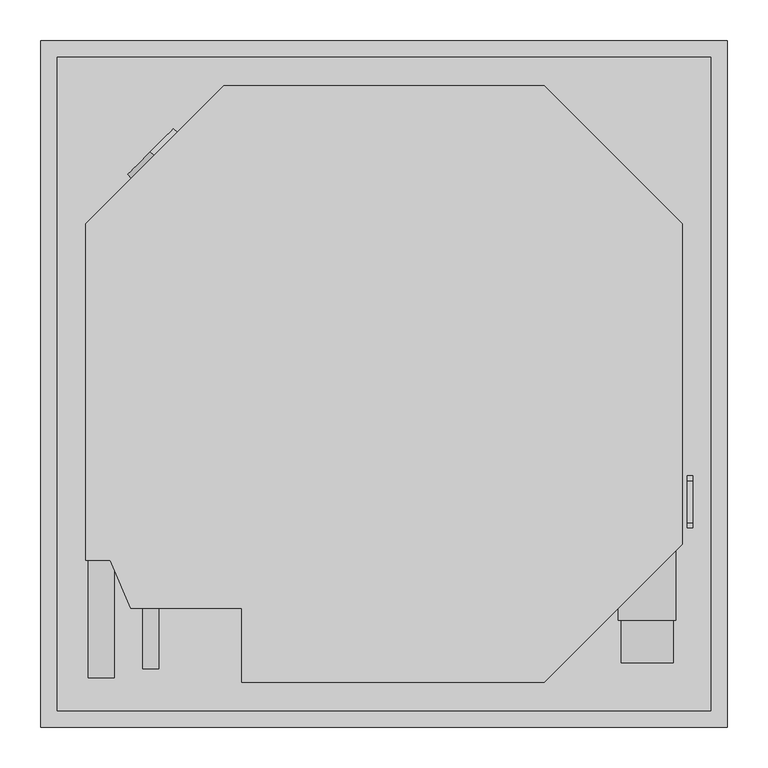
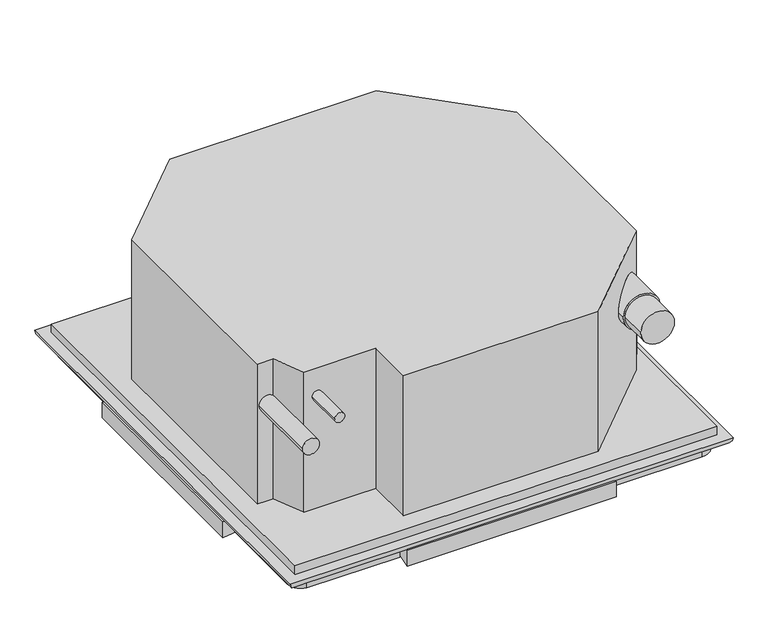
"""IFC4 building model written with IfcOpenShell, lengths in millimetres: proxy geometry, PLFY-P-NBMU-E_4-way_33x33 : PLFY-P36NBMU-E."""

import ifcopenshell
import ifcopenshell.guid

model = None  # the IFC model being written
_history = None  # IfcOwnerHistory: only IFC2X3 demands one
_inside = {}  # id of a spatial element -> (the spatial element, [elements in it])
_under = {}  # id of a project, library or spatial element -> (it, [spatial elements below it])
_declared = {}  # id of a project -> (the project, [libraries it declares])
_typed = {}  # id of a type object -> (the type object, [elements of that type])
_made_of = {}  # id of a material, layer set ... -> (it, [elements and type objects made of it])


def new_model(schema):
    """Start an empty IFC model of exactly this schema.

    Asked for "IFC4X3", IfcOpenShell would pick the latest addendum, in which some entities
    have other attributes; the version numbers below select the first issue.
    IFC2X3 requires an IfcOwnerHistory on every rooted entity: one is made here for all.
    """
    global model, _history
    if schema == "IFC4X3":
        model = ifcopenshell.file(schema_version=(4, 3, 0, 0))
    else:
        model = ifcopenshell.file(schema=schema)
    _inside.clear()
    _under.clear()
    _declared.clear()
    _typed.clear()
    _made_of.clear()
    _history = None
    if model.schema == "IFC2X3":
        org = make("IfcOrganization", Name="unknown")
        user = make(
            "IfcPersonAndOrganization",
            ThePerson=make("IfcPerson", FamilyName="unknown"),
            TheOrganization=org,
        )
        app = make(
            "IfcApplication",
            ApplicationDeveloper=org,
            Version="unknown",
            ApplicationFullName="unknown",
            ApplicationIdentifier="unknown",
        )
        _history = make(
            "IfcOwnerHistory",
            OwningUser=user,
            OwningApplication=app,
            ChangeAction="ADDED",
            CreationDate=0,
        )
    return model


def make(cls, **values):
    """One entity of the class cls with the attributes given. An attribute that is None is left unset."""
    return model.create_entity(
        cls, **{name: value for name, value in values.items() if value is not None}
    )


def rooted(cls, **values):
    """An entity with a GlobalId (a new one), such as an element, a storey or a relation."""
    return make(cls, GlobalId=ifcopenshell.guid.new(), OwnerHistory=_history, **values)


def si_unit(unit_type, name, prefix=None):
    """IfcSIUnit, for example si_unit("LENGTHUNIT", "METRE", prefix="MILLI")."""
    return make("IfcSIUnit", UnitType=unit_type, Prefix=prefix, Name=name)


def assignment(units):
    """IfcUnitAssignment: the units of a project."""
    return None if units is None else make("IfcUnitAssignment", Units=units)


def point(xyz):
    """IfcCartesianPoint."""
    return None if xyz is None else make("IfcCartesianPoint", Coordinates=xyz)


def direction(xyz):
    """IfcDirection."""
    return None if xyz is None else make("IfcDirection", DirectionRatios=xyz)


def frame(location, z_axis=None, x_axis=None):
    """IfcAxis2Placement3D, a coordinate frame: its origin and axes. An axis left out is left unset."""
    return make(
        "IfcAxis2Placement3D",
        Location=point(location),
        Axis=direction(z_axis),
        RefDirection=direction(x_axis),
    )


def frame_2d(location, x_axis=None):
    """IfcAxis2Placement2D, a coordinate frame in the plane: its origin and x axis."""
    return make(
        "IfcAxis2Placement2D", Location=point(location), RefDirection=direction(x_axis)
    )


def origin():
    """The frame at (0, 0, 0) with its axes left unset."""
    return frame((0.0, 0.0, 0.0))


def place(relative_to, where):
    """IfcLocalPlacement: puts the frame where relative to a parent placement (None: the world)."""
    return make(
        "IfcLocalPlacement", PlacementRelTo=relative_to, RelativePlacement=where
    )


def context(
    kind, dimensions, precision=None, world=None, true_north=None, identifier=None
):
    """IfcGeometricRepresentationContext, for example the 3D "Model" context."""
    return make(
        "IfcGeometricRepresentationContext",
        ContextIdentifier=identifier,
        ContextType=kind,
        CoordinateSpaceDimension=dimensions,
        Precision=precision,
        WorldCoordinateSystem=world,
        TrueNorth=true_north,
    )


def project(units=None, contexts=None):
    """IfcProject with its units and contexts."""
    return rooted(
        "IfcProject",
        Name="project",
        RepresentationContexts=contexts,
        UnitsInContext=assignment(units),
    )


def spatial(cls, under=None, at=None, **own):
    """A site, building, storey or space (cls), placed at a placement, below another one or the project."""
    s = rooted(cls, ObjectPlacement=at, **own)
    if under is not None:
        _under.setdefault(under.id(), (under, []))[1].append(s)
    return s


def polyline(points):
    """IfcPolyline through the points."""
    return make("IfcPolyline", Points=[point(p) for p in points])


def circle_curve(where, radius):
    """IfcCircle in the frame where."""
    return make("IfcCircle", Position=where, Radius=radius)


def ellipse_curve(where, semi_axis1, semi_axis2):
    """IfcEllipse in the frame where."""
    return make(
        "IfcEllipse", Position=where, SemiAxis1=semi_axis1, SemiAxis2=semi_axis2
    )


def trimmed(basis, trim1, trim2, sense, master):
    """IfcTrimmedCurve: the piece of a basis curve between two trims."""
    return make(
        "IfcTrimmedCurve",
        BasisCurve=basis,
        Trim1=trim1,
        Trim2=trim2,
        SenseAgreement=sense,
        MasterRepresentation=master,
    )


def segment(curve, same_sense, transition):
    """IfcCompositeCurveSegment."""
    return make(
        "IfcCompositeCurveSegment",
        Transition=transition,
        SameSense=same_sense,
        ParentCurve=curve,
    )


def composite_curve(segments, self_intersect=None):
    """IfcCompositeCurve: segments joined end to end."""
    return make("IfcCompositeCurve", Segments=segments, SelfIntersect=self_intersect)


def outline(outer, holes=None, kind="AREA"):
    """IfcArbitraryClosedProfileDef: a profile drawn as a closed curve; with holes, ...WithVoids."""
    if holes is None:
        return make("IfcArbitraryClosedProfileDef", ProfileType=kind, OuterCurve=outer)
    return make(
        "IfcArbitraryProfileDefWithVoids",
        ProfileType=kind,
        OuterCurve=outer,
        InnerCurves=holes,
    )


def extrude(swept, where, along, depth):
    """IfcExtrudedAreaSolid: the profile swept, set in the frame where, extruded along a direction by depth."""
    return make(
        "IfcExtrudedAreaSolid",
        SweptArea=swept,
        Position=where,
        ExtrudedDirection=direction(along),
        Depth=depth,
    )


def faces_of(points, faces, orient=None, outer=None):
    """IfcFace entities. A face is a list of loops; a loop is a list of indices into points, from 0.

    orient and outer hold one flag for each loop. By default every Orientation is true, the
    first loop of a face is its IfcFaceOuterBound and the others are IfcFaceBound.
    """
    made = []
    for i, loops in enumerate(faces):
        bounds = []
        for j, loop in enumerate(loops):
            is_outer = j == 0 if outer is None else outer[i][j]
            bounds.append(
                make(
                    "IfcFaceOuterBound" if is_outer else "IfcFaceBound",
                    Bound=make("IfcPolyLoop", Polygon=[points[k] for k in loop]),
                    Orientation=True if orient is None else orient[i][j],
                )
            )
        made.append(make("IfcFace", Bounds=bounds))
    return made


def faceted_brep(points, faces, orient=None, outer=None, voids=None):
    """IfcFacetedBrep: a solid bounded by flat faces; with voids (closed shells), ...WithVoids."""
    shared = [point(p) for p in points]
    hull = make("IfcClosedShell", CfsFaces=faces_of(shared, faces, orient, outer))
    if voids is None:
        return make("IfcFacetedBrep", Outer=hull)
    return make(
        "IfcFacetedBrepWithVoids",
        Outer=hull,
        Voids=[
            make(cls, CfsFaces=faces_of(shared, fs, o, b)) for cls, fs, o, b in voids
        ],
    )


def shape(context_of_items, identifier, shape_type, items):
    """IfcShapeRepresentation: the items that make up one representation, for example the "Body"."""
    return make(
        "IfcShapeRepresentation",
        ContextOfItems=context_of_items,
        RepresentationIdentifier=identifier,
        RepresentationType=shape_type,
        Items=items,
    )


def source(mapping_origin, context_of_items, identifier, shape_type, items):
    """IfcRepresentationMap: a shape defined once, which mapped items show again and again."""
    return make(
        "IfcRepresentationMap",
        MappingOrigin=mapping_origin,
        MappedRepresentation=shape(context_of_items, identifier, shape_type, items),
    )


def transform(
    local_origin,
    x_axis=None,
    y_axis=None,
    z_axis=None,
    scale=None,
    scale2=None,
    scale3=None,
    uniform=True,
):
    """IfcCartesianTransformationOperator3D, or its non-uniform kind. x_axis, y_axis, z_axis: its Axis1, 2, 3."""
    if uniform:
        return make(
            "IfcCartesianTransformationOperator3D",
            Axis1=direction(x_axis),
            Axis2=direction(y_axis),
            LocalOrigin=point(local_origin),
            Scale=scale,
            Axis3=direction(z_axis),
        )
    return make(
        "IfcCartesianTransformationOperator3DnonUniform",
        Axis1=direction(x_axis),
        Axis2=direction(y_axis),
        LocalOrigin=point(local_origin),
        Scale=scale,
        Axis3=direction(z_axis),
        Scale2=scale2,
        Scale3=scale3,
    )


def mapped(mapping_source, mapping_target):
    """IfcMappedItem: shows the shape of a source again, moved by a transform."""
    return make(
        "IfcMappedItem", MappingSource=mapping_source, MappingTarget=mapping_target
    )


def made_of(thing, what):
    """Note that an element or type object is made of a material, layer set ...; save() writes the relation."""
    if what is not None:
        _made_of.setdefault(what.id(), (what, []))[1].append(thing)
    return thing


def element(
    cls,
    number,
    at=None,
    inside=None,
    cuts=None,
    type_object=None,
    material=None,
    context=None,
    identifier="Body",
    shape_type=None,
    held_by="IfcProductDefinitionShape",
    body=None,
    shapes=None,
    **own,
):
    """One element of the class cls, such as IfcWall. Its Tag is "e" and its number.

    at: its placement. inside: the storey or other place that contains it. cuts: it is an
    opening in that element (IfcRelVoidsElement). A single representation is given by context,
    identifier, shape_type and body (its items); several are given by shapes. held_by: the class
    of the entity that holds the representations. save() writes the other relations.
    """
    e = rooted(cls, Tag="e%d" % number, ObjectPlacement=at, **own)
    if body is not None:
        shapes = [shape(context, identifier, shape_type, body)]
    if shapes is not None:
        e.Representation = make(held_by, Representations=shapes)
    if inside is not None:
        _inside.setdefault(inside.id(), (inside, []))[1].append(e)
    if cuts is not None:
        rooted(
            "IfcRelVoidsElement", RelatingBuildingElement=cuts, RelatedOpeningElement=e
        )
    if type_object is not None:
        _typed.setdefault(type_object.id(), (type_object, []))[1].append(e)
    return made_of(e, material)


def aggregate(whole, parts):
    """IfcRelAggregates: a whole, such as a stair, and the parts it consists of."""
    return rooted("IfcRelAggregates", RelatingObject=whole, RelatedObjects=parts)


def save(model, path):
    """Write the relations noted so far, then the file.

    IfcRelAggregates (storeys below a building ...), IfcRelContainedInSpatialStructure (elements
    in a storey), IfcRelDefinesByType, IfcRelAssociatesMaterial and IfcRelDeclares: one each for
    every whole, place, type object, material and project.
    """
    for whole, parts in _under.values():
        aggregate(whole, parts)
    for where, things in _inside.values():
        rooted(
            "IfcRelContainedInSpatialStructure",
            RelatedElements=things,
            RelatingStructure=where,
        )
    for kind, things in _typed.values():
        rooted("IfcRelDefinesByType", RelatedObjects=things, RelatingType=kind)
    for what, things in _made_of.values():
        rooted("IfcRelAssociatesMaterial", RelatedObjects=things, RelatingMaterial=what)
    for by, libraries in _declared.values():
        rooted("IfcRelDeclares", RelatingContext=by, RelatedDefinitions=libraries)
    model.write(path)


def plane_surface(at):
    """IfcPlane: the flat surface through the origin of the frame at, square to its z axis."""
    return make("IfcPlane", Position=at)


def cylinder_surface(at, radius):
    """IfcCylindricalSurface: all points at the distance radius from the z axis of the frame at."""
    return make("IfcCylindricalSurface", Position=at, Radius=radius)


def revolved_surface(curve, axis_point, axis_direction):
    """IfcSurfaceOfRevolution: the curve turned about the line through axis_point along axis_direction."""
    return make(
        "IfcSurfaceOfRevolution",
        SweptCurve=make("IfcArbitraryOpenProfileDef", ProfileType="CURVE", Curve=curve),
        AxisPosition=make("IfcAxis1Placement", Location=point(axis_point), Axis=direction(axis_direction)),
    )


def advanced_brep(points, edges, surfaces, faces):
    """IfcAdvancedBrep: a solid bounded by faces that lie on surfaces and meet in shared edges.

    An edge is (start, end): straight between two places in points (the first is 0);
    or (start, end, curve); or (start, end, curve, False) where it runs against its curve.
    A face is (place in surfaces, loops), or (place, loops, False) where it looks against
    its surface's normal. A loop lists edges by number (the first is 1), with a minus sign
    where the edge is run from its end to its start. The first loop is the outer one.
    """
    corners = [point(p) for p in points]
    vertices = [make("IfcVertexPoint", VertexGeometry=c) for c in corners]
    made = []
    for start, end, *more in edges:
        made.append(
            make(
                "IfcEdgeCurve",
                EdgeStart=vertices[start],
                EdgeEnd=vertices[end],
                EdgeGeometry=more[0] if more else make("IfcPolyline", Points=[corners[start], corners[end]]),
                SameSense=more[1] if len(more) > 1 else True,
            )
        )
    hull = []
    for where, loops, *sense in faces:
        bounds = []
        for j, loop in enumerate(loops):
            ring = [make("IfcOrientedEdge", EdgeElement=made[abs(k) - 1], Orientation=k > 0) for k in loop]
            bounds.append(
                make(
                    "IfcFaceOuterBound" if j == 0 else "IfcFaceBound",
                    Bound=make("IfcEdgeLoop", EdgeList=ring),
                    Orientation=True,
                )
            )
        hull.append(make("IfcAdvancedFace", Bounds=bounds, FaceSurface=surfaces[where], SameSense=sense[0] if sense else True))
    return make("IfcAdvancedBrep", Outer=make("IfcClosedShell", CfsFaces=hull))


def mechanical_equipment_de7c3da1(model_context):
    return source(origin(), model_context, "Body", "SolidModel", [
        extrude(outline(composite_curve([segment(polyline([(495.9893963, 179.1894012), (433.1276035, 242.0511941), (455.2213333, 399.25625), (626.6713333, 399.25625)]), True, "CONTINUOUS"), segment(trimmed(circle_curve(frame_2d((626.6713333, 372.2612181)), 26.9950319), [point((626.6713333, 399.25625))], [point((653.25625, 376.9488562))], False, "CARTESIAN"), True, "CONTINUOUS"), segment(polyline([(653.25625, 376.9488562), (653.25625, 201.2918161), (495.9893963, 179.1894012)]), True, "CONTINUOUS")], self_intersect=False)), frame((0.0, 0.0, -34.925), z_axis=(0.0, 0.0, 1.0), x_axis=(1.0, 0.0, 0.0)), (0.0, 0.0, 1.0), 25.4),
        extrude(outline(composite_curve([segment(polyline([(495.9893963, -178.4947006), (653.25625, -200.5971155), (653.25625, -376.2541555)]), True, "CONTINUOUS"), segment(trimmed(circle_curve(frame_2d((626.6713333, -371.5665174)), 26.9950319), [point((653.25625, -376.2541555))], [point((626.6713333, -398.5615494))], False, "CARTESIAN"), True, "CONTINUOUS"), segment(polyline([(626.6713333, -398.5615494), (455.2213333, -398.5615494), (433.1276035, -241.3564935), (495.9893963, -178.4947006)]), True, "CONTINUOUS")], self_intersect=False)), frame((0.0, 0.0, -34.925), z_axis=(0.0, 0.0, 1.0), x_axis=(1.0, 0.0, 0.0)), (0.0, 0.0, 1.0), 25.4),
        extrude(outline(composite_curve([segment(polyline([(75.5617928, -241.3), (53.459378, -398.5668537), (-122.1976621, -398.5668537)]), True, "CONTINUOUS"), segment(trimmed(circle_curve(frame_2d((-117.510024, -371.9819369)), 26.9950319), [point((-122.1976621, -398.5668537))], [point((-144.5050559, -371.9819369))], False, "CARTESIAN"), True, "CONTINUOUS"), segment(polyline([(-144.5050559, -371.9819369), (-144.5050559, -200.5319369), (12.7, -178.4382072), (75.5617928, -241.3)]), True, "CONTINUOUS")], self_intersect=False)), frame((0.0, 0.0, -34.925), z_axis=(0.0, 0.0, 1.0), x_axis=(1.0, 0.0, 0.0)), (0.0, 0.0, 1.0), 25.4),
        extrude(outline(composite_curve([segment(polyline([(74.8105988, 242.0202952), (11.9488059, 179.1585024), (-145.25625, 201.2522321), (-145.25625, 372.7022321)]), True, "CONTINUOUS"), segment(trimmed(circle_curve(frame_2d((-118.2612181, 372.7022321)), 26.9950319), [point((-145.25625, 372.7022321))], [point((-122.9488562, 399.2871489))], False, "CARTESIAN"), True, "CONTINUOUS"), segment(polyline([(-122.9488562, 399.2871489), (52.7081839, 399.2871489), (74.8105988, 242.0202952)]), True, "CONTINUOUS")], self_intersect=False)), frame((0.0, 0.0, -34.925), z_axis=(0.0, 0.0, 1.0), x_axis=(1.0, 0.0, 0.0)), (0.0, 0.0, 1.0), 25.4),
        advanced_brep(
        [(657.240471, -403.240471, -16.1614213), (630.124829, -376.124829, -23.2074342), (630.124829, -191.6865644, -23.2074342), (657.240471, -195.4974193, -16.1614213), (630.124829, 376.124829, -23.2074342), (657.240471, 403.240471, -16.1614213), (657.240471, 195.431279, -16.1614213), (630.124829, 191.620424, -23.2074342), (585.0640593, 331.0640593, -30.1625), (618.33125, 189.9629446, -25.2489466), (618.33125, -190.0290849, -25.2489466), (585.0640593, -331.0640593, -30.1625), (495.3, 241.3, 0.0), (495.3, 241.3, -30.1625), (495.3, -241.3, -30.1625), (495.3, -241.3, 0.0), (673.0971264, 419.0971264, 0.0), (673.0971264, -419.0971264, 0.0), (670.1423679, -197.3106627, -9.525), (670.1423679, 197.2445224, -9.525), (449.2705241, -403.240471, -16.1614213), (445.0717378, -376.124829, -23.2074342), (-149.240471, -403.240471, -16.1614213), (-122.124829, -376.124829, -23.2074342), (62.9944025, -376.124829, -23.2074342), (58.7956162, -403.240471, -16.1614213), (444.0290849, -369.3914063, -24.392355), (64.0370554, -369.3914063, -24.392355), (-77.0640593, -331.0640593, -30.1625), (12.7, -241.3, -30.1625), (12.7, -241.3, 0.0), (-165.0971264, -419.0971264, 0.0), (56.7977912, -416.1423679, -9.525), (451.2683492, -416.1423679, -9.525), (-149.240471, -195.431279, -16.1614213), (-122.124829, -191.620424, -23.2074342), (-149.240471, 403.240471, -16.1614213), (-122.124829, 376.124829, -23.2074342), (-122.124829, 191.6865644, -23.2074342), (-149.240471, 195.4974193, -16.1614213), (-110.33125, -189.9629446, -25.2489466), (-110.33125, 190.0290849, -25.2489466), (-77.0640593, 331.0640593, -30.1625), (12.7, 241.3, -30.1625), (12.7, 241.3, 0.0), (-165.0971264, 419.0971264, 0.0), (-162.1423679, 197.3106627, -9.525), (-162.1423679, -197.2445224, -9.525), (58.5025807, 403.240471, -16.1614213), (62.3134356, 376.124829, -23.2074342), (445.620424, 376.124829, -23.2074342), (449.431279, 403.240471, -16.1614213), (63.9709151, 364.33125, -25.2489466), (443.9629446, 364.33125, -25.2489466), (451.2445224, 416.1423679, -9.525), (56.6893373, 416.1423679, -9.525), (56.3398096, -419.1, -9.525), (451.7263308, -419.1, -9.525), (451.7263308, -419.1, -41.275), (56.3398096, -419.1, -41.275), (64.0370554, -369.3914063, -41.275), (444.0290849, -369.3914063, -41.275), (673.1, -197.7263308, -9.525), (673.1, 197.6601904, -9.525), (673.1, -197.7263308, -41.275), (618.33125, -190.0290849, -41.275), (618.33125, 189.9629446, -41.275), (673.1, 197.6601904, -41.275), (451.6601904, 419.1, -9.525), (56.2736692, 419.1, -9.525), (56.2736692, 419.1, -41.275), (451.6601904, 419.1, -41.275), (443.9629446, 364.33125, -41.275), (63.9709151, 364.33125, -41.275), (-165.1, 197.7263308, -9.525), (-165.1, -197.6601904, -9.525), (-165.1, 197.7263308, -41.275), (-110.33125, 190.0290849, -41.275), (-110.33125, -189.9629446, -41.275), (-165.1, -197.6601904, -41.275)],
        [
            (0, 1, ellipse_curve(frame((657.240471, -403.240471, -71.8598951), z_axis=(-0.7071067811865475, -0.7071067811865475, 0.0), x_axis=(0.7071067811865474, -0.7071067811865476, 0.0)), 78.7695371, 55.6984738)),
            (1, 2),
            (2, 3, ellipse_curve(frame((657.240471, -195.4974193, -71.8598951), z_axis=(0.13917310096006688, 0.9902680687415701, 0.0), x_axis=(0.9902680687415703, -0.1391731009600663, 0.0)), 56.2458546, 55.6984738)),
            (3, 0),
            (4, 5, ellipse_curve(frame((657.240471, 403.240471, -71.8598951), z_axis=(-0.7071067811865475, 0.7071067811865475, 0.0), x_axis=(-0.7071067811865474, -0.7071067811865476, 0.0)), 78.7695371, 55.6984738)),
            (5, 6),
            (6, 7, ellipse_curve(frame((657.240471, 195.431279, -71.8598951), z_axis=(0.13917310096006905, -0.9902680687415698, 0.0), x_axis=(-0.9902680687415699, -0.13917310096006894, 0.0)), 56.2458546, 55.6984738)),
            (7, 4),
            (8, 4, ellipse_curve(frame((467.2055779, 213.2055779, 882.8722668), z_axis=(0.7071067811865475, -0.7071067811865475, 0.0), x_axis=(0.7071067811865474, 0.7071067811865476, 0.0)), 1301.9394049, 920.6101819)),
            (7, 9, ellipse_curve(frame((467.2055779, 168.7236165, 882.8722668), z_axis=(-0.13917310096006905, 0.9902680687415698, 0.0), x_axis=(0.9902680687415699, 0.13917310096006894, 0.0)), 929.6575452, 920.6101819)),
            (9, 10),
            (10, 2, ellipse_curve(frame((467.2055779, -168.7897568, 882.8722668), z_axis=(-0.13917310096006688, -0.9902680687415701, 0.0), x_axis=(-0.9902680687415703, 0.1391731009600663, 0.0)), 929.6575452, 920.6101819)),
            (1, 11, ellipse_curve(frame((467.2055779, -213.2055779, 882.8722668), z_axis=(0.7071067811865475, 0.7071067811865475, 0.0), x_axis=(-0.7071067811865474, 0.7071067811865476, 0.0)), 1301.9394049, 920.6101819)),
            (11, 8),
            (12, 13),
            (13, 14),
            (14, 15),
            (15, 12),
            (5, 16, ellipse_curve(frame((657.240471, 403.240471, -0.3018923), z_axis=(0.7071067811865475, -0.7071067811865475, 0.0), x_axis=(0.7071067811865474, 0.7071067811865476, 0.0)), 22.428761, 15.859529)),
            (16, 17),
            (17, 0, ellipse_curve(frame((657.240471, -403.240471, -0.3018923), z_axis=(0.7071067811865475, 0.7071067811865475, 0.0), x_axis=(-0.7071067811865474, 0.7071067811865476, 0.0)), 22.428761, 15.859529)),
            (3, 18, ellipse_curve(frame((657.240471, -195.4974193, -0.3018923), z_axis=(-0.13917310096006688, -0.9902680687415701, 0.0), x_axis=(-0.9902680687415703, 0.1391731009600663, 0.0)), 16.0153897, 15.859529)),
            (18, 19),
            (19, 6, ellipse_curve(frame((657.240471, 195.431279, -0.3018923), z_axis=(-0.13917310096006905, 0.9902680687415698, 0.0), x_axis=(0.9902680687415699, 0.13917310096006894, 0.0)), 16.0153897, 15.859529)),
            (0, 20),
            (20, 21, ellipse_curve(frame((449.2705241, -403.240471, -71.8598951), z_axis=(-0.9882225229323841, -0.15302367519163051, 0.0), x_axis=(-0.1530236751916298, 0.9882225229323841, 0.0)), 56.3622793, 55.6984738)),
            (21, 1),
            (22, 23, ellipse_curve(frame((-149.240471, -403.240471, -71.8598951), z_axis=(-0.7071067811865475, 0.7071067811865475, 0.0), x_axis=(-0.7071067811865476, -0.7071067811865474, 0.0)), 78.7695371, 55.6984738)),
            (23, 24),
            (24, 25, ellipse_curve(frame((58.7956162, -403.240471, -71.8598951), z_axis=(0.9882225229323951, -0.15302367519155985, 0.0), x_axis=(-0.153023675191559, -0.9882225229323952, 0.0)), 56.3622793, 55.6984738)),
            (25, 22),
            (21, 26, ellipse_curve(frame((419.8441176, -213.2055779, 882.8722668), z_axis=(0.9882225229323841, 0.15302367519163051, 0.0), x_axis=(0.1530236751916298, -0.9882225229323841, 0.0)), 931.5818659, 920.6101819)),
            (26, 27),
            (27, 24, ellipse_curve(frame((88.2220228, -213.2055779, 882.8722668), z_axis=(-0.9882225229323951, 0.15302367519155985, 0.0), x_axis=(0.153023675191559, 0.9882225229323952, 0.0)), 931.5818659, 920.6101819)),
            (23, 28, ellipse_curve(frame((40.7944221, -213.2055779, 882.8722668), z_axis=(0.7071067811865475, -0.7071067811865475, 0.0), x_axis=(0.7071067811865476, 0.7071067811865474, 0.0)), 1301.9394049, 920.6101819)),
            (28, 11),
            (14, 29),
            (29, 30),
            (30, 15),
            (17, 31),
            (31, 22, ellipse_curve(frame((-149.240471, -403.240471, -0.3018923), z_axis=(0.7071067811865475, -0.7071067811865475, 0.0), x_axis=(0.7071067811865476, 0.7071067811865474, 0.0)), 22.428761, 15.859529)),
            (25, 32, ellipse_curve(frame((58.7956162, -403.240471, -0.3018923), z_axis=(-0.9882225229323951, 0.15302367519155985, 0.0), x_axis=(0.153023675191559, 0.9882225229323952, 0.0)), 16.0485403, 15.859529)),
            (32, 33),
            (33, 20, ellipse_curve(frame((449.2705241, -403.240471, -0.3018923), z_axis=(0.9882225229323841, 0.15302367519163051, 0.0), x_axis=(0.1530236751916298, -0.9882225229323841, 0.0)), 16.0485403, 15.859529)),
            (22, 34),
            (34, 35, ellipse_curve(frame((-149.240471, -195.431279, -71.8598951), z_axis=(-0.13917310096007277, 0.9902680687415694, 0.0), x_axis=(0.9902680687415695, 0.13917310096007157, 0.0)), 56.2458546, 55.6984738)),
            (35, 23),
            (36, 37, ellipse_curve(frame((-149.240471, 403.240471, -71.8598951), z_axis=(0.7071067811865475, 0.7071067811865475, 0.0), x_axis=(-0.7071067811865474, 0.7071067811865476, 0.0)), 78.7695371, 55.6984738)),
            (37, 38),
            (38, 39, ellipse_curve(frame((-149.240471, 195.4974193, -71.8598951), z_axis=(-0.13917310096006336, -0.9902680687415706, 0.0), x_axis=(-0.9902680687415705, 0.1391731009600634, 0.0)), 56.2458546, 55.6984738)),
            (39, 36),
            (35, 40, ellipse_curve(frame((40.7944221, -168.7236165, 882.8722668), z_axis=(0.13917310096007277, -0.9902680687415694, 0.0), x_axis=(-0.9902680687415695, -0.13917310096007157, 0.0)), 929.6575452, 920.6101819)),
            (40, 41),
            (41, 38, ellipse_curve(frame((40.7944221, 168.7897568, 882.8722668), z_axis=(0.13917310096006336, 0.9902680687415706, 0.0), x_axis=(0.9902680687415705, -0.1391731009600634, 0.0)), 929.6575452, 920.6101819)),
            (37, 42, ellipse_curve(frame((40.7944221, 213.2055779, 882.8722668), z_axis=(-0.7071067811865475, -0.7071067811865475, 0.0), x_axis=(0.7071067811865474, -0.7071067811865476, 0.0)), 1301.9394049, 920.6101819)),
            (42, 28),
            (29, 43),
            (43, 44),
            (44, 30),
            (31, 45),
            (45, 36, ellipse_curve(frame((-149.240471, 403.240471, -0.3018923), z_axis=(-0.7071067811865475, -0.7071067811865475, 0.0), x_axis=(0.7071067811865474, -0.7071067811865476, 0.0)), 22.428761, 15.859529)),
            (39, 46, ellipse_curve(frame((-149.240471, 195.4974193, -0.3018923), z_axis=(0.13917310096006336, 0.9902680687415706, 0.0), x_axis=(0.9902680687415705, -0.1391731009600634, 0.0)), 16.0153897, 15.859529)),
            (46, 47),
            (47, 34, ellipse_curve(frame((-149.240471, -195.431279, -0.3018923), z_axis=(0.13917310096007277, -0.9902680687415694, 0.0), x_axis=(-0.9902680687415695, -0.13917310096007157, 0.0)), 16.0153897, 15.859529)),
            (36, 48),
            (48, 49, ellipse_curve(frame((58.5025807, 403.240471, -71.8598951), z_axis=(0.9902680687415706, 0.13917310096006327, 0.0), x_axis=(0.1391731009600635, -0.9902680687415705, 0.0)), 56.2458546, 55.6984738)),
            (49, 37),
            (4, 50),
            (50, 51, ellipse_curve(frame((449.431279, 403.240471, -71.8598951), z_axis=(-0.9902680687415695, 0.13917310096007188, 0.0), x_axis=(0.13917310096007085, 0.9902680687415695, 0.0)), 56.2458546, 55.6984738)),
            (51, 5),
            (8, 42),
            (49, 52, ellipse_curve(frame((85.2102432, 213.2055779, 882.8722668), z_axis=(-0.9902680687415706, -0.13917310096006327, 0.0), x_axis=(-0.1391731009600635, 0.9902680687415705, 0.0)), 929.6575452, 920.6101819)),
            (52, 53),
            (53, 50, ellipse_curve(frame((422.7236165, 213.2055779, 882.8722668), z_axis=(0.9902680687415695, -0.13917310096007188, 0.0), x_axis=(-0.13917310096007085, -0.9902680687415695, 0.0)), 929.6575452, 920.6101819)),
            (13, 43),
            (12, 44),
            (16, 45),
            (51, 54, ellipse_curve(frame((449.431279, 403.240471, -0.3018923), z_axis=(0.9902680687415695, -0.13917310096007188, 0.0), x_axis=(-0.13917310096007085, -0.9902680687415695, 0.0)), 16.0153897, 15.859529)),
            (54, 55),
            (55, 48, ellipse_curve(frame((58.5025807, 403.240471, -0.3018923), z_axis=(-0.9902680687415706, -0.13917310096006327, 0.0), x_axis=(-0.1391731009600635, 0.9902680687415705, 0.0)), 16.0153897, 15.859529)),
            (56, 57),
            (57, 33),
            (32, 56),
            (58, 59),
            (59, 60),
            (60, 61),
            (61, 58),
            (61, 26),
            (57, 58),
            (60, 27),
            (59, 56),
            (62, 63),
            (63, 19),
            (18, 62),
            (64, 65),
            (65, 66),
            (66, 67),
            (67, 64),
            (62, 64),
            (67, 63),
            (66, 9),
            (65, 10),
            (68, 69),
            (69, 55),
            (54, 68),
            (70, 71),
            (71, 72),
            (72, 73),
            (73, 70),
            (73, 52),
            (69, 70),
            (72, 53),
            (71, 68),
            (74, 75),
            (75, 47),
            (46, 74),
            (76, 77),
            (77, 78),
            (78, 79),
            (79, 76),
            (74, 76),
            (79, 75),
            (78, 40),
            (77, 41),
        ],
        [
            revolved_surface(polyline([(712.9389448, -458.9389448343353, -71.8598951), (712.9389448, -187.6695092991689, -71.8598951)]), (657.240471, 419.1, -71.8598951), (0.0, -1.0, 0.0)),
            revolved_surface(polyline([(712.9389448, 187.60336899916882, -71.8598951), (712.9389448, 458.93894483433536, -71.8598951)]), (657.240471, 419.1, -71.8598951), (0.0, -1.0, 0.0)),
            cylinder_surface(frame((467.2055779, 419.1, 882.8722668), z_axis=(0.0, 1.0, 0.0), x_axis=(1.0, 0.0, 0.0)), 920.6101819),
            plane_surface(frame((495.3, 241.3, -30.1625), z_axis=(-1.0, 0.0, 0.0), x_axis=(0.0, -1.0, 0.0))),
            cylinder_surface(frame((657.240471, 419.1, -0.3018923), z_axis=(0.0, 1.0, 0.0), x_axis=(1.0, 0.0, 0.0)), 15.859529),
            revolved_surface(polyline([(440.64576097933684, -458.9389448, -71.8598951), (712.9389448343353, -458.9389448, -71.8598951)]), (673.1, -403.240471, -71.8598951), (-1.0, 0.0, 0.0)),
            revolved_surface(polyline([(-204.9389448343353, -458.9389448, -71.8598951), (67.42037932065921, -458.9389448, -71.8598951)]), (673.1, -403.240471, -71.8598951), (-1.0, 0.0, 0.0)),
            cylinder_surface(frame((673.1, -213.2055779, 882.8722668), z_axis=(1.0, 0.0, 0.0), x_axis=(0.0, -1.0, 0.0)), 920.6101819),
            plane_surface(frame((495.3, -241.3, -30.1625), z_axis=(0.0, 1.0, 0.0), x_axis=(-1.0, 0.0, 0.0))),
            cylinder_surface(frame((673.1, -403.240471, -0.3018923), z_axis=(1.0, 0.0, 0.0), x_axis=(0.0, -1.0, 0.0)), 15.859529),
            revolved_surface(polyline([(-204.9389448, -187.60336899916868, -71.8598951), (-204.9389448, -458.9389448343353, -71.8598951)]), (-149.240471, -419.1, -71.8598951), (0.0, 1.0, 0.0)),
            revolved_surface(polyline([(-204.9389448, 458.9389448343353, -71.8598951), (-204.9389448, 187.66950929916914, -71.8598951)]), (-149.240471, -419.1, -71.8598951), (0.0, 1.0, 0.0)),
            cylinder_surface(frame((40.7944221, -419.1, 882.8722668), z_axis=(0.0, -1.0, 0.0), x_axis=(-1.0, 0.0, 0.0)), 920.6101819),
            plane_surface(frame((12.7, -241.3, -30.1625), z_axis=(1.0, 0.0, 0.0), x_axis=(0.0, 1.0, 0.0))),
            cylinder_surface(frame((-149.240471, -419.1, -0.3018923), z_axis=(0.0, -1.0, 0.0), x_axis=(-1.0, 0.0, 0.0)), 15.859529),
            revolved_surface(polyline([(66.33049070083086, 458.9389448, -71.8598951), (-204.93894483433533, 458.9389448, -71.8598951)]), (-165.1, 403.240471, -71.8598951), (1.0, 0.0, 0.0)),
            revolved_surface(polyline([(712.9389448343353, 458.9389448, -71.8598951), (441.60336899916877, 458.9389448, -71.8598951)]), (-165.1, 403.240471, -71.8598951), (1.0, 0.0, 0.0)),
            cylinder_surface(frame((-165.1, 213.2055779, 882.8722668), z_axis=(-1.0, 0.0, 0.0), x_axis=(0.0, 1.0, 0.0)), 920.6101819),
            plane_surface(frame((-77.0640593, 331.0640593, -30.1625), z_axis=(0.0, 0.0, -1.0), x_axis=(1.0, 0.0, 0.0))),
            plane_surface(frame((12.7, 241.3, -30.1625), z_axis=(0.0, -1.0, 0.0), x_axis=(1.0, 0.0, 0.0))),
            plane_surface(frame((12.7, 241.3, 0.0), z_axis=(0.0, 0.0, 1.0), x_axis=(1.0, 0.0, 0.0))),
            cylinder_surface(frame((-165.1, 403.240471, -0.3018923), z_axis=(-1.0, 0.0, 0.0), x_axis=(0.0, 1.0, 0.0)), 15.859529),
            plane_surface(frame((444.0290849, -369.3914063, -9.525), z_axis=(0.0, 0.0, 1.0), x_axis=(-0.15302367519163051, 0.9882225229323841, 0.0))),
            plane_surface(frame((444.0290849, -369.3914063, -41.275), z_axis=(0.0, 0.0, -1.0), x_axis=(0.15302367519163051, -0.9882225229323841, 0.0))),
            plane_surface(frame((451.7263308, -419.1, -9.525), z_axis=(0.9882225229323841, 0.15302367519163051, 0.0), x_axis=(0.0, 0.0, -1.0))),
            plane_surface(frame((444.0290849, -369.3914063, -9.525), z_axis=(0.0, 1.0, 0.0), x_axis=(0.0, 0.0, -1.0))),
            plane_surface(frame((64.0370554, -369.3914063, -9.525), z_axis=(-0.9882225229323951, 0.15302367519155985, 0.0), x_axis=(0.0, 0.0, -1.0))),
            plane_surface(frame((56.3398096, -419.1, -9.525), z_axis=(0.0, -1.0, 0.0), x_axis=(0.0, 0.0, -1.0))),
            plane_surface(frame((673.1, -988.0353065, -9.525), z_axis=(0.0, 0.0, 1.0), x_axis=(0.0, 1.0, 0.0))),
            plane_surface(frame((673.1, -988.0353065, -41.275), z_axis=(0.0, 0.0, -1.0), x_axis=(0.0, -1.0, 0.0))),
            plane_surface(frame((673.1, -197.7263308, -9.525), z_axis=(1.0, 0.0, 0.0), x_axis=(0.0, 0.0, -1.0))),
            plane_surface(frame((673.1, 197.6601904, -9.525), z_axis=(-0.13917310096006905, 0.9902680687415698, 0.0), x_axis=(0.0, 0.0, -1.0))),
            plane_surface(frame((618.33125, 189.9629446, -9.525), z_axis=(-1.0, 0.0, 0.0), x_axis=(0.0, 0.0, -1.0))),
            plane_surface(frame((618.33125, -190.0290849, -9.525), z_axis=(-0.13917310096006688, -0.9902680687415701, 0.0), x_axis=(0.0, 0.0, -1.0))),
            plane_surface(frame((81.1605988, 242.0202952, -9.525), z_axis=(0.0, 0.0, 1.0), x_axis=(0.13917310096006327, -0.9902680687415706, 0.0))),
            plane_surface(frame((81.1605988, 242.0202952, -41.275), z_axis=(0.0, 0.0, -1.0), x_axis=(-0.13917310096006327, 0.9902680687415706, 0.0))),
            plane_surface(frame((56.2736692, 419.1, -9.525), z_axis=(-0.9902680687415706, -0.13917310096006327, 0.0), x_axis=(0.0, 0.0, -1.0))),
            plane_surface(frame((63.9709151, 364.33125, -9.525), z_axis=(0.0, -1.0, 0.0), x_axis=(0.0, 0.0, -1.0))),
            plane_surface(frame((443.9629446, 364.33125, -9.525), z_axis=(0.9902680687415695, -0.13917310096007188, 0.0), x_axis=(0.0, 0.0, -1.0))),
            plane_surface(frame((451.6601904, 419.1, -9.525), z_axis=(0.0, 1.0, 0.0), x_axis=(0.0, 0.0, -1.0))),
            plane_surface(frame((-165.1, 988.0353065, -9.525), z_axis=(0.0, 0.0, 1.0), x_axis=(0.0, -1.0, 0.0))),
            plane_surface(frame((-165.1, 988.0353065, -41.275), z_axis=(0.0, 0.0, -1.0), x_axis=(0.0, 1.0, 0.0))),
            plane_surface(frame((-165.1, 197.7263308, -9.525), z_axis=(-1.0, 0.0, 0.0), x_axis=(0.0, 0.0, -1.0))),
            plane_surface(frame((-165.1, -197.6601904, -9.525), z_axis=(0.13917310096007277, -0.9902680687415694, 0.0), x_axis=(0.0, 0.0, -1.0))),
            plane_surface(frame((-110.33125, -189.9629446, -9.525), z_axis=(1.0, 0.0, 0.0), x_axis=(0.0, 0.0, -1.0))),
            plane_surface(frame((-110.33125, 190.0290849, -9.525), z_axis=(0.13917310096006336, 0.9902680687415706, 0.0), x_axis=(0.0, 0.0, -1.0))),
        ],
        [
            (0, [[1, 2, 3, 4]]),
            (1, [[5, 6, 7, 8]]),
            (2, [[9, -8, 10, 11, 12, -2, 13, 14]]),
            (3, [[15, 16, 17, 18]]),
            (4, [[19, 20, 21, -4, 22, 23, 24, -6]]),
            (5, [[-1, 25, 26, 27]]),
            (6, [[28, 29, 30, 31]]),
            (7, [[-13, -27, 32, 33, 34, -29, 35, 36]]),
            (8, [[-17, 37, 38, 39]]),
            (9, [[-21, 40, 41, -31, 42, 43, 44, -25]]),
            (10, [[-28, 45, 46, 47]]),
            (11, [[48, 49, 50, 51]]),
            (12, [[-35, -47, 52, 53, 54, -49, 55, 56]]),
            (13, [[-38, 57, 58, 59]]),
            (14, [[-41, 60, 61, -51, 62, 63, 64, -45]]),
            (15, [[-48, 65, 66, 67]]),
            (16, [[-5, 68, 69, 70]]),
            (17, [[-9, 71, -55, -67, 72, 73, 74, -68]]),
            (18, [[-14, -36, -56, -71], [-16, 75, -57, -37]]),
            (19, [[-15, 76, -58, -75]]),
            (20, [[-20, 77, -60, -40], [-18, -39, -59, -76]]),
            (21, [[-19, -70, 78, 79, 80, -65, -61, -77]]),
            (22, [[81, 82, -43, 83]]),
            (23, [[84, 85, 86, 87]]),
            (24, [[-87, 88, -32, -26, -44, -82, 89]]),
            (25, [[-86, 90, -33, -88]]),
            (26, [[-85, 91, -83, -42, -30, -34, -90]]),
            (27, [[-81, -91, -84, -89]]),
            (28, [[92, 93, -23, 94]]),
            (29, [[95, 96, 97, 98]]),
            (30, [[-92, 99, -98, 100]]),
            (31, [[-97, 101, -10, -7, -24, -93, -100]]),
            (32, [[-96, 102, -11, -101]]),
            (33, [[-95, -99, -94, -22, -3, -12, -102]]),
            (34, [[103, 104, -79, 105]]),
            (35, [[106, 107, 108, 109]]),
            (36, [[-109, 110, -72, -66, -80, -104, 111]]),
            (37, [[-108, 112, -73, -110]]),
            (38, [[-107, 113, -105, -78, -69, -74, -112]]),
            (39, [[-103, -113, -106, -111]]),
            (40, [[114, 115, -63, 116]]),
            (41, [[117, 118, 119, 120]]),
            (42, [[-114, 121, -120, 122]]),
            (43, [[-119, 123, -52, -46, -64, -115, -122]]),
            (44, [[-118, 124, -53, -123]]),
            (45, [[-117, -121, -116, -62, -50, -54, -124]]),
        ],
    ),
        faceted_brep([(-145.25625, 399.25625, 17.4625), (-145.25625, -399.25625, 17.4625), (653.25625, -399.25625, 17.4625), (653.25625, 399.25625, 17.4625), (-145.25625, 399.25625, 0.0), (653.25625, 399.25625, 0.0), (653.25625, -399.25625, 0.0), (-145.25625, -399.25625, 0.0), (-37.597716, -314.3813928, 0.0), (545.597716, -314.3813928, 0.0), (545.597716, 285.5943885, 0.0), (-37.597716, 285.5943885, 0.0), (-37.597716, 285.5943885, -9.525), (545.597716, 285.5943885, -9.525), (545.597716, -314.3813928, -9.525), (-37.597716, -314.3813928, -9.525)], [[[0, 1, 2, 3]], [[4, 5, 6, 7], [8, 9, 10, 11]], [[1, 0, 4, 7]], [[2, 1, 7, 6]], [[3, 2, 6, 5]], [[0, 3, 5, 4]], [[12, 13, 14, 15]], [[12, 15, 8, 11]], [[15, 14, 9, 8]], [[14, 13, 10, 9]], [[13, 12, 11, 10]]]),
        advanced_brep(
        [(449.7291217, 364.33125, 297.9539062), (58.2708783, 364.33125, 297.9539062), (-110.33125, 195.7291217, 297.9539062), (-110.33125, -215.4259931, 297.9539062), (-80.4797249, -215.4259931, 297.9539062), (-55.6682982, -273.8780513, 297.9539062), (80.398975, -273.8780513, 297.9539062), (80.398975, -364.33125, 297.9539062), (449.7291217, -364.33125, 297.9539062), (618.33125, -195.7291217, 297.9539062), (618.33125, 195.7291217, 297.9539062), (449.7291217, 364.33125, 17.4625), (618.33125, 195.7291217, 17.4625), (618.33125, -195.7291217, 17.4625), (449.7291217, -364.33125, 17.4625), (80.398975, -364.33125, 17.4625), (80.398975, -273.8780513, 17.4625), (-55.6682982, -273.8780513, 17.4625), (-80.4797249, -215.4259931, 17.4625), (-110.33125, -215.4259931, 17.4625), (-110.33125, 195.7291217, 17.4625), (58.2708783, 364.33125, 17.4625), (610.4929688, -203.567403, 207.16875), (540.4445313, -273.6158405, 207.16875), (540.4445313, -288.528125, 207.16875), (610.4929688, -288.528125, 207.16875)],
        [
            (0, 1),
            (1, 2),
            (2, 3),
            (3, 4),
            (4, 5),
            (5, 6),
            (6, 7),
            (7, 8),
            (8, 9),
            (9, 10),
            (10, 0),
            (11, 12),
            (12, 13),
            (13, 14),
            (14, 15),
            (15, 16),
            (16, 17),
            (17, 18),
            (18, 19),
            (19, 20),
            (20, 21),
            (21, 11),
            (0, 11),
            (21, 1),
            (20, 2),
            (19, 3),
            (18, 4),
            (17, 5),
            (16, 6),
            (15, 7),
            (14, 8),
            (13, 9),
            (22, 23, ellipse_curve(frame((575.46875, -238.5916217, 207.16875), z_axis=(-0.7071067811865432, 0.7071067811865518, 0.0), x_axis=(-0.7071067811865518, -0.7071067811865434, 0.0)), 49.5317252, 35.0242188)),
            (23, 22, ellipse_curve(frame((575.46875, -238.5916217, 207.16875), z_axis=(-0.7071067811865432, 0.7071067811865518, 0.0), x_axis=(-0.7071067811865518, -0.7071067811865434, 0.0)), 49.5317252, 35.0242188)),
            (12, 10),
            (24, 25, circle_curve(frame((575.46875, -288.528125, 207.16875), z_axis=(0.0, -1.0, 0.0), x_axis=(0.0, 0.0, 1.0)), 35.0242188)),
            (25, 24, circle_curve(frame((575.46875, -288.528125, 207.16875), z_axis=(0.0, -1.0, 0.0), x_axis=(0.0, 0.0, 1.0)), 35.0242187)),
            (24, 23),
            (22, 25),
        ],
        [
            plane_surface(frame((58.2708783, 364.33125, 297.9539062), z_axis=(0.0, 0.0, 1.0), x_axis=(-1.0, 0.0, 0.0))),
            plane_surface(frame((58.2708783, 364.33125, 17.4625), z_axis=(0.0, 0.0, -1.0), x_axis=(1.0, 0.0, 0.0))),
            plane_surface(frame((449.7291217, 364.33125, 297.9539062), z_axis=(0.0, 1.0, 0.0), x_axis=(0.0, 0.0, -1.0))),
            plane_surface(frame((58.2708783, 364.33125, 297.9539062), z_axis=(-0.7071067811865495, 0.7071067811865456, 0.0), x_axis=(0.0, 0.0, -1.0))),
            plane_surface(frame((-110.33125, 195.7291217, 297.9539062), z_axis=(-1.0, 0.0, 0.0), x_axis=(0.0, 0.0, -1.0))),
            plane_surface(frame((-110.33125, -215.4259931, 297.9539062), z_axis=(0.0, -1.0, 0.0), x_axis=(0.0, 0.0, -1.0))),
            plane_surface(frame((-80.4797249, -215.4259931, 297.9539062), z_axis=(-0.9205048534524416, -0.390731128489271, 0.0), x_axis=(0.0, 0.0, -1.0))),
            plane_surface(frame((-55.6682982, -273.8780513, 297.9539062), z_axis=(0.0, -1.0, 0.0), x_axis=(0.0, 0.0, -1.0))),
            plane_surface(frame((80.398975, -273.8780513, 297.9539062), z_axis=(-1.0, 0.0, 0.0), x_axis=(0.0, 0.0, -1.0))),
            plane_surface(frame((80.398975, -364.33125, 297.9539062), z_axis=(0.0, -1.0, 0.0), x_axis=(0.0, 0.0, -1.0))),
            plane_surface(frame((449.7291217, -364.33125, 297.9539062), z_axis=(0.7071067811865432, -0.7071067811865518, 0.0), x_axis=(0.0, 0.0, -1.0))),
            plane_surface(frame((618.33125, -195.7291217, 297.9539062), z_axis=(1.0, 0.0, 0.0), x_axis=(0.0, 0.0, -1.0))),
            plane_surface(frame((618.33125, 195.7291217, 297.9539062), z_axis=(0.7071067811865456, 0.7071067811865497, 0.0), x_axis=(0.0, 0.0, -1.0))),
            plane_surface(frame((575.46875, -288.528125, 242.1929687), z_axis=(0.0, -1.0, 0.0), x_axis=(-1.0, 0.0, 0.0))),
            cylinder_surface(frame((575.46875, -178.4947006, 207.16875), z_axis=(0.0, -1.0, 0.0), x_axis=(0.0, 0.0, 1.0)), 35.0242188),
        ],
        [
            (0, [[1, 2, 3, 4, 5, 6, 7, 8, 9, 10, 11]]),
            (1, [[12, 13, 14, 15, 16, 17, 18, 19, 20, 21, 22]]),
            (2, [[-1, 23, -22, 24]]),
            (3, [[-2, -24, -21, 25]]),
            (4, [[-3, -25, -20, 26]]),
            (5, [[-4, -26, -19, 27]]),
            (6, [[-5, -27, -18, 28]]),
            (7, [[-6, -28, -17, 29]]),
            (8, [[-7, -29, -16, 30]]),
            (9, [[-8, -30, -15, 31]]),
            (10, [[-9, -31, -14, 32], [33, 34]]),
            (11, [[-10, -32, -13, 35]]),
            (12, [[-11, -35, -12, -23]]),
            (13, [[36, 37]]),
            (14, [[-36, 38, -33, 39]]),
            (14, [[-37, -39, -34, -38]]),
        ],
    ),
        extrude(outline(composite_curve([segment(trimmed(circle_curve(frame_2d((207.16875, 575.46875)), 31.8492188), [point((207.16875, 543.6195313))], [point((207.16875, 607.3179688))], False, "CARTESIAN"), True, "CONTINUOUS"), segment(trimmed(circle_curve(frame_2d((207.16875, 575.46875)), 31.8492188), [point((207.16875, 607.3179688))], [point((207.16875, 543.6195313))], False, "CARTESIAN"), True, "CONTINUOUS")], self_intersect=False)), frame((0.0, -340.51875, 0.0), z_axis=(0.0, 1.0, 0.0), x_axis=(0.0, 0.0, 1.0)), (0.0, 0.0, 1.0), 51.990625),
        extrude(outline(composite_curve([segment(trimmed(circle_curve(frame_2d((0.0, -39.5882812)), 39.5882813), [point((0.0, -79.1765625))], [point((0.0, 0.0))], False, "CARTESIAN"), True, "CONTINUOUS"), segment(trimmed(circle_curve(frame_2d((0.0, -39.5882812)), 39.5882813), [point((0.0, 0.0))], [point((0.0, -79.1765625))], False, "CARTESIAN"), True, "CONTINUOUS")], self_intersect=False)), frame((-26.7609219, 279.2994499, 138.1125), z_axis=(-0.7071067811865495, 0.7071067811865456, 0.0), x_axis=(0.7071067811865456, 0.7071067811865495, 0.0)), (0.0, 0.0, 1.0), 6.35),
        extrude(outline(composite_curve([segment(trimmed(circle_curve(frame_2d((213.51875, -91.28125)), 15.875), [point((213.51875, -107.15625))], [point((213.51875, -75.40625))], False, "CARTESIAN"), True, "CONTINUOUS"), segment(trimmed(circle_curve(frame_2d((213.51875, -91.28125)), 15.875), [point((213.51875, -75.40625))], [point((213.51875, -107.15625))], False, "CARTESIAN"), True, "CONTINUOUS")], self_intersect=False)), frame((0.0, -358.9085201, 0.0), z_axis=(0.0, 1.0, 0.0), x_axis=(0.0, 0.0, 1.0)), (0.0, 0.0, 1.0), 143.4825269),
        extrude(outline(composite_curve([segment(trimmed(circle_curve(frame_2d((243.68125, -30.95625)), 9.525), [point((243.68125, -40.48125))], [point((243.68125, -21.43125))], False, "CARTESIAN"), True, "CONTINUOUS"), segment(trimmed(circle_curve(frame_2d((243.68125, -30.95625)), 9.525), [point((243.68125, -21.43125))], [point((243.68125, -40.48125))], False, "CARTESIAN"), True, "CONTINUOUS")], self_intersect=False)), frame((0.0, -347.8952388, 0.0), z_axis=(0.0, 1.0, 0.0), x_axis=(0.0, 0.0, 1.0)), (0.0, 0.0, 1.0), 74.0171875),
        extrude(outline(composite_curve([segment(trimmed(circle_curve(frame_2d((207.16875, 575.46875)), 31.8492188), [point((207.16875, 543.6195313))], [point((207.16875, 607.3179688))], False, "CARTESIAN"), True, "CONTINUOUS"), segment(trimmed(circle_curve(frame_2d((207.16875, 575.46875)), 31.8492188), [point((207.16875, 607.3179688))], [point((207.16875, 543.6195313))], False, "CARTESIAN"), True, "CONTINUOUS")], self_intersect=False)), frame((0.0, -340.51875, 0.0), z_axis=(0.0, 1.0, 0.0), x_axis=(0.0, 0.0, 1.0)), (0.0, 0.0, 1.0), 51.990625),
        extrude(outline(composite_curve([segment(trimmed(circle_curve(frame_2d((-118.7050999, 74.647381)), 6.35), [point((-118.7050999, 80.997381))], [point((-112.3550999, 74.647381))], False, "CARTESIAN"), True, "CONTINUOUS"), segment(polyline([(-112.3550999, 74.647381), (-112.3550999, 36.547381)]), True, "CONTINUOUS"), segment(trimmed(circle_curve(frame_2d((-118.7050999, 36.547381)), 6.35), [point((-112.3550999, 36.547381))], [point((-118.7050999, 30.197381))], False, "CARTESIAN"), True, "CONTINUOUS"), segment(polyline([(-118.7050999, 30.197381), (-169.5050999, 30.197381)]), True, "CONTINUOUS"), segment(trimmed(circle_curve(frame_2d((-169.5050999, 36.547381)), 6.35), [point((-169.5050999, 30.197381))], [point((-175.8550999, 36.547381))], False, "CARTESIAN"), True, "CONTINUOUS"), segment(polyline([(-175.8550999, 36.547381), (-175.8550999, 74.647381)]), True, "CONTINUOUS"), segment(trimmed(circle_curve(frame_2d((-169.5050999, 74.647381)), 6.35), [point((-175.8550999, 74.647381))], [point((-169.5050999, 80.997381))], False, "CARTESIAN"), True, "CONTINUOUS"), segment(polyline([(-169.5050999, 80.997381), (-118.7050999, 80.997381)]), True, "CONTINUOUS")], self_intersect=False)), frame((624.68125, 0.0, 0.0), z_axis=(1.0, 0.0, 0.0), x_axis=(0.0, 1.0, 0.0)), (0.0, 0.0, 1.0), 6.35),
    ])


if __name__ == "__main__":
    model = new_model("IFC4")
    model_context = context("Model", 3, world=origin())
    ifc_project = project(units=[si_unit("LENGTHUNIT", "METRE", prefix="MILLI")], contexts=[model_context])
    site = spatial("IfcSite", under=ifc_project)
    building = spatial("IfcBuilding", under=site)
    placement = place(None, origin())
    mechanical_equipment_shape = mechanical_equipment_de7c3da1(model_context)
    element("IfcBuildingElementProxy", 1, Name="PLFY-P-NBMU-E_4-way_33x33 : PLFY-P36NBMU-E", ObjectType="PLFY-P-NBMU-E_4-way_33x33 : PLFY-P36NBMU-E", at=placement, inside=building, context=model_context, shape_type="MappedRepresentation", body=[
        mapped(mechanical_equipment_shape, transform((0.0, 0.0, 0.0), x_axis=(1.0, 0.0, 0.0), y_axis=(0.0, 1.0, 0.0), z_axis=(0.0, 0.0, 1.0))),
    ])
    save(model, "model.ifc")
